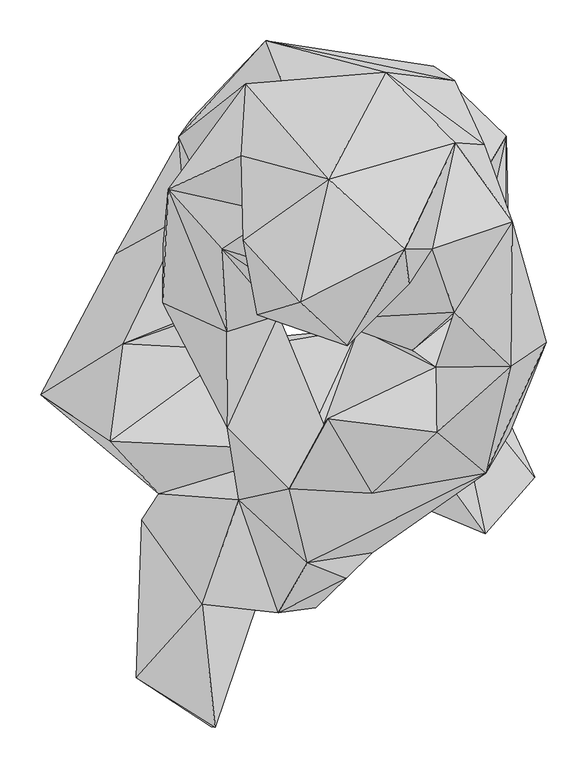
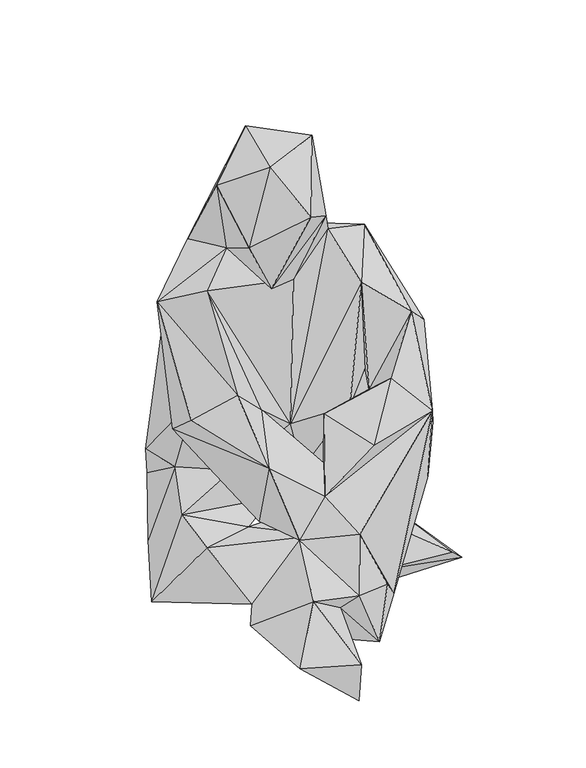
"""IFC4 building model written with IfcOpenShell, lengths in millimetres: geographic element geometry, Enscape AssetDefinition - Faith 001 Sitting : Enscape AssetDefinition - Faith 001 Sitting."""

import ifcopenshell
import ifcopenshell.guid

model = None  # the IFC model being written
_history = None  # IfcOwnerHistory: only IFC2X3 demands one
_inside = {}  # id of a spatial element -> (the spatial element, [elements in it])
_under = {}  # id of a project, library or spatial element -> (it, [spatial elements below it])
_declared = {}  # id of a project -> (the project, [libraries it declares])
_typed = {}  # id of a type object -> (the type object, [elements of that type])
_made_of = {}  # id of a material, layer set ... -> (it, [elements and type objects made of it])


def new_model(schema):
    """Start an empty IFC model of exactly this schema.

    Asked for "IFC4X3", IfcOpenShell would pick the latest addendum, in which some entities
    have other attributes; the version numbers below select the first issue.
    IFC2X3 requires an IfcOwnerHistory on every rooted entity: one is made here for all.
    """
    global model, _history
    if schema == "IFC4X3":
        model = ifcopenshell.file(schema_version=(4, 3, 0, 0))
    else:
        model = ifcopenshell.file(schema=schema)
    _inside.clear()
    _under.clear()
    _declared.clear()
    _typed.clear()
    _made_of.clear()
    _history = None
    if model.schema == "IFC2X3":
        org = make("IfcOrganization", Name="unknown")
        user = make(
            "IfcPersonAndOrganization",
            ThePerson=make("IfcPerson", FamilyName="unknown"),
            TheOrganization=org,
        )
        app = make(
            "IfcApplication",
            ApplicationDeveloper=org,
            Version="unknown",
            ApplicationFullName="unknown",
            ApplicationIdentifier="unknown",
        )
        _history = make(
            "IfcOwnerHistory",
            OwningUser=user,
            OwningApplication=app,
            ChangeAction="ADDED",
            CreationDate=0,
        )
    return model


def make(cls, **values):
    """One entity of the class cls with the attributes given. An attribute that is None is left unset."""
    return model.create_entity(
        cls, **{name: value for name, value in values.items() if value is not None}
    )


def rooted(cls, **values):
    """An entity with a GlobalId (a new one), such as an element, a storey or a relation."""
    return make(cls, GlobalId=ifcopenshell.guid.new(), OwnerHistory=_history, **values)


def si_unit(unit_type, name, prefix=None):
    """IfcSIUnit, for example si_unit("LENGTHUNIT", "METRE", prefix="MILLI")."""
    return make("IfcSIUnit", UnitType=unit_type, Prefix=prefix, Name=name)


def assignment(units):
    """IfcUnitAssignment: the units of a project."""
    return None if units is None else make("IfcUnitAssignment", Units=units)


def point(xyz):
    """IfcCartesianPoint."""
    return None if xyz is None else make("IfcCartesianPoint", Coordinates=xyz)


def direction(xyz):
    """IfcDirection."""
    return None if xyz is None else make("IfcDirection", DirectionRatios=xyz)


def frame(location, z_axis=None, x_axis=None):
    """IfcAxis2Placement3D, a coordinate frame: its origin and axes. An axis left out is left unset."""
    return make(
        "IfcAxis2Placement3D",
        Location=point(location),
        Axis=direction(z_axis),
        RefDirection=direction(x_axis),
    )


def origin():
    """The frame at (0, 0, 0) with its axes left unset."""
    return frame((0.0, 0.0, 0.0))


def place(relative_to, where):
    """IfcLocalPlacement: puts the frame where relative to a parent placement (None: the world)."""
    return make(
        "IfcLocalPlacement", PlacementRelTo=relative_to, RelativePlacement=where
    )


def context(
    kind, dimensions, precision=None, world=None, true_north=None, identifier=None
):
    """IfcGeometricRepresentationContext, for example the 3D "Model" context."""
    return make(
        "IfcGeometricRepresentationContext",
        ContextIdentifier=identifier,
        ContextType=kind,
        CoordinateSpaceDimension=dimensions,
        Precision=precision,
        WorldCoordinateSystem=world,
        TrueNorth=true_north,
    )


def project(units=None, contexts=None):
    """IfcProject with its units and contexts."""
    return rooted(
        "IfcProject",
        Name="project",
        RepresentationContexts=contexts,
        UnitsInContext=assignment(units),
    )


def spatial(cls, under=None, at=None, **own):
    """A site, building, storey or space (cls), placed at a placement, below another one or the project."""
    s = rooted(cls, ObjectPlacement=at, **own)
    if under is not None:
        _under.setdefault(under.id(), (under, []))[1].append(s)
    return s


def point_list(points):
    """IfcCartesianPointList2D or 3D."""
    cls = (
        "IfcCartesianPointList2D" if len(points[0]) == 2 else "IfcCartesianPointList3D"
    )
    return make(cls, CoordList=points)


def triangles(points, corners, closed=None, point_numbers=None):
    """IfcTriangulatedFaceSet: each triangle names its three corners, points numbered from 1."""
    return make(
        "IfcTriangulatedFaceSet",
        Coordinates=point_list(points),
        Closed=closed,
        CoordIndex=corners,
        PnIndex=point_numbers,
    )


def shape(context_of_items, identifier, shape_type, items):
    """IfcShapeRepresentation: the items that make up one representation, for example the "Body"."""
    return make(
        "IfcShapeRepresentation",
        ContextOfItems=context_of_items,
        RepresentationIdentifier=identifier,
        RepresentationType=shape_type,
        Items=items,
    )


def source(mapping_origin, context_of_items, identifier, shape_type, items):
    """IfcRepresentationMap: a shape defined once, which mapped items show again and again."""
    return make(
        "IfcRepresentationMap",
        MappingOrigin=mapping_origin,
        MappedRepresentation=shape(context_of_items, identifier, shape_type, items),
    )


def transform(
    local_origin,
    x_axis=None,
    y_axis=None,
    z_axis=None,
    scale=None,
    scale2=None,
    scale3=None,
    uniform=True,
):
    """IfcCartesianTransformationOperator3D, or its non-uniform kind. x_axis, y_axis, z_axis: its Axis1, 2, 3."""
    if uniform:
        return make(
            "IfcCartesianTransformationOperator3D",
            Axis1=direction(x_axis),
            Axis2=direction(y_axis),
            LocalOrigin=point(local_origin),
            Scale=scale,
            Axis3=direction(z_axis),
        )
    return make(
        "IfcCartesianTransformationOperator3DnonUniform",
        Axis1=direction(x_axis),
        Axis2=direction(y_axis),
        LocalOrigin=point(local_origin),
        Scale=scale,
        Axis3=direction(z_axis),
        Scale2=scale2,
        Scale3=scale3,
    )


def mapped(mapping_source, mapping_target):
    """IfcMappedItem: shows the shape of a source again, moved by a transform."""
    return make(
        "IfcMappedItem", MappingSource=mapping_source, MappingTarget=mapping_target
    )


def made_of(thing, what):
    """Note that an element or type object is made of a material, layer set ...; save() writes the relation."""
    if what is not None:
        _made_of.setdefault(what.id(), (what, []))[1].append(thing)
    return thing


def element(
    cls,
    number,
    at=None,
    inside=None,
    cuts=None,
    type_object=None,
    material=None,
    context=None,
    identifier="Body",
    shape_type=None,
    held_by="IfcProductDefinitionShape",
    body=None,
    shapes=None,
    **own,
):
    """One element of the class cls, such as IfcWall. Its Tag is "e" and its number.

    at: its placement. inside: the storey or other place that contains it. cuts: it is an
    opening in that element (IfcRelVoidsElement). A single representation is given by context,
    identifier, shape_type and body (its items); several are given by shapes. held_by: the class
    of the entity that holds the representations. save() writes the other relations.
    """
    e = rooted(cls, Tag="e%d" % number, ObjectPlacement=at, **own)
    if body is not None:
        shapes = [shape(context, identifier, shape_type, body)]
    if shapes is not None:
        e.Representation = make(held_by, Representations=shapes)
    if inside is not None:
        _inside.setdefault(inside.id(), (inside, []))[1].append(e)
    if cuts is not None:
        rooted(
            "IfcRelVoidsElement", RelatingBuildingElement=cuts, RelatedOpeningElement=e
        )
    if type_object is not None:
        _typed.setdefault(type_object.id(), (type_object, []))[1].append(e)
    return made_of(e, material)


def aggregate(whole, parts):
    """IfcRelAggregates: a whole, such as a stair, and the parts it consists of."""
    return rooted("IfcRelAggregates", RelatingObject=whole, RelatedObjects=parts)


def save(model, path):
    """Write the relations noted so far, then the file.

    IfcRelAggregates (storeys below a building ...), IfcRelContainedInSpatialStructure (elements
    in a storey), IfcRelDefinesByType, IfcRelAssociatesMaterial and IfcRelDeclares: one each for
    every whole, place, type object, material and project.
    """
    for whole, parts in _under.values():
        aggregate(whole, parts)
    for where, things in _inside.values():
        rooted(
            "IfcRelContainedInSpatialStructure",
            RelatedElements=things,
            RelatingStructure=where,
        )
    for kind, things in _typed.values():
        rooted("IfcRelDefinesByType", RelatedObjects=things, RelatingType=kind)
    for what, things in _made_of.values():
        rooted("IfcRelAssociatesMaterial", RelatedObjects=things, RelatingMaterial=what)
    for by, libraries in _declared.values():
        rooted("IfcRelDeclares", RelatingContext=by, RelatedDefinitions=libraries)
    model.write(path)


def geographic_element_9276c96e(model_context):
    return source(origin(), model_context, "Body", "Tessellation", [
        triangles([(25.6670016, -270.9259957, 0.0), (-120.9520013, -157.3359996, 0.0), (-113.3329987, -266.845994, 136.985007), (-187.6459954, -163.2360028, 45.5540009), (-68.7919992, -138.5329958, 182.2540099), (-97.1319981, -417.2670087, 80.1519935), (-193.9910115, -356.6079932, 67.4590001), (-33.9149993, -229.5539934, 73.0480031), (-102.5340031, -416.4410053, 0.0), (15.3139998, -215.8589899, 213.6320001), (-20.3520008, -277.0280033, 123.6260023), (63.2110036, -235.1539968, 94.4920067), (95.2240023, -203.5920061, 44.3979986), (-6.9100002, -124.9840045, 251.4579979), (233.743, -106.2789961, 349.7569942), (190.8009991, 17.0329992, 93.9819996), (55.2330022, -33.6409994, 202.2659969), (221.9000093, -110.9620043, 208.0710023), (54.0559983, -142.9249969, 62.2129995), (-13.339, -71.7580019, 0.0), (113.5730004, -129.851994, 46.2139987), (158.4360051, -76.1450024, 101.3419973), (-166.6040022, -131.4350097, 67.9309962), (-311.0330134, -10.3490004, 50.1249973), (-83.8249979, -13.5469997, 154.3229931), (-12.5759993, -98.6040013, 166.3769993), (9.7770002, -77.830996, 129.4710035), (-95.792, 202.1850062, 307.5419838), (-161.0890045, 172.9729993, 278.0489984), (-154.9939914, 241.3099982, 520.9199841), (-134.315993, 209.0770092, 160.8110055), (-70.2980029, 108.5610062, 190.6709925), (-35.2840018, 423.3349886, 119.6449953), (-141.9119956, 306.0159868, 145.0690067), (-126.5130082, 327.0990023, 72.7029978), (-209.7570004, 52.4130026, 173.0560066), (-219.1040135, 162.8640052, 51.7870007), (-189.0799922, 44.8650031, 0.0), (-225.8290027, -66.8300005, 176.2099929), (-72.3420006, 45.2059979, 102.0110063), (29.5810001, 136.6309952, 76.4030036), (35.8250003, 199.8550067, 0.0), (-35.2250006, 356.9839877, 0.0), (-173.066998, 184.127006, 0.0), (168.8479968, 321.7479844, 5.04), (170.1030074, 392.0229827, 91.9940032), (196.0200119, 374.2449981, 233.9279996), (111.6629971, 385.1960011, 399.5090083), (233.1120066, 263.7759961, 291.2040094), (269.0250034, 110.1749974, 354.9689944), (232.0570019, 296.0569835, 402.0119805), (216.4800094, 112.9700031, 320.1509889), (264.5939876, 24.8670005, 483.7089924), (307.7859733, 53.975003, 433.0399921), (266.6470054, 202.0000066, 572.6860105), (173.6580048, -56.3540003, 414.0459844), (173.0229963, 23.5120005, 340.3560056), (94.4479959, -130.5689924, 335.0750052), (35.7539995, -46.7370001, 265.315001), (40.4389969, -39.3950018, 369.9660078), (78.701001, 70.7349993, 81.1539945), (-82.8130048, -50.1130022, 296.4560144), (-19.9400006, 87.4919979, 323.0469967), (39.0710027, 82.6210016, 273.9340061), (66.8980015, 120.0080001, 568.0279736), (168.689994, 168.666013, 616.4050352), (66.959998, 85.3739949, 161.514996), (-0.549, 10.4129999, 0.0), (117.2429981, -108.3569943, 0.0), (293.9110026, -111.2139965, 0.0), (233.4689979, -180.419002, 74.2050046), (192.6640031, 107.4279994, 13.4230009), (259.2749808, 306.7680121, 119.2100019), (263.8360033, 81.5270004, 158.5240085), (259.2000036, 138.6890001, 204.2749949), (263.3909905, -56.9619982, 284.3480144), (195.4300043, 90.6859981, 533.4299764), (144.0510002, 44.1620028, 300.6840085), (196.9189941, 298.2900231, 543.0780066), (134.6130043, 167.8329969, 841.3339657), (140.3210044, 126.0530072, 682.1299479), (-1.0489999, 83.6940012, 591.8820045), (-23.1480011, 212.1489874, 614.3720198), (-89.5870008, 168.7779974, 566.6530211), (-45.9689964, 88.0549995, 697.7079941), (64.3659976, 49.5840011, 752.0509706), (7.0349999, 102.8309962, 852.0580204), (-83.4089986, 67.1309996, 390.0860006), (-161.5799993, 102.7550016, 339.342005), (41.8539996, 253.8299825, 842.5250267), (-65.5250021, 282.3239918, 607.5109923), (-62.9979988, 179.202997, 790.3069931), (-11.0799991, 361.9329952, 380.6070007), (-59.873998, 370.6859857, 426.4850143)], [[17, 22, 27], [22, 71, 16], [94, 90, 48], [48, 93, 94], [90, 91, 92], [90, 94, 91], [30, 91, 94], [30, 89, 88], [30, 88, 84], [30, 83, 91], [30, 84, 83], [91, 83, 92], [92, 83, 85], [90, 92, 87], [92, 85, 87], [87, 85, 86], [83, 82, 85], [85, 82, 86], [83, 84, 65], [83, 65, 82], [86, 82, 81], [81, 82, 65], [80, 86, 81], [87, 86, 80], [80, 90, 87], [48, 90, 79], [90, 80, 79], [81, 65, 66], [66, 80, 81], [80, 66, 79], [66, 55, 79], [55, 66, 77], [78, 57, 76], [52, 76, 57], [52, 57, 77], [52, 77, 78], [75, 78, 76], [75, 52, 78], [76, 74, 75], [74, 76, 16], [52, 75, 73], [73, 75, 74], [46, 73, 45], [74, 72, 73], [16, 72, 74], [45, 73, 72], [16, 70, 72], [16, 71, 70], [22, 21, 71], [70, 71, 21], [72, 70, 69], [21, 69, 70], [72, 69, 20], [20, 69, 21], [68, 72, 20], [68, 20, 38], [61, 72, 68], [16, 61, 22], [57, 78, 61], [61, 16, 17], [27, 22, 61], [61, 68, 38], [67, 61, 78], [66, 64, 77], [64, 67, 78], [66, 65, 64], [64, 78, 77], [84, 64, 65], [67, 64, 32], [64, 84, 63], [64, 63, 32], [63, 84, 88], [63, 88, 62], [89, 62, 88], [59, 57, 61], [32, 63, 59], [61, 17, 59], [62, 59, 63], [60, 57, 59], [62, 14, 59], [59, 14, 60], [58, 60, 14], [60, 56, 57], [56, 60, 58], [56, 58, 15], [15, 58, 14], [77, 53, 55], [57, 53, 77], [57, 56, 53], [56, 15, 53], [53, 54, 55], [76, 54, 15], [53, 15, 54], [50, 54, 76], [76, 52, 50], [73, 49, 52], [46, 49, 73], [50, 52, 49], [51, 55, 54], [54, 50, 51], [55, 51, 79], [51, 50, 49], [51, 48, 79], [47, 49, 46], [49, 47, 51], [51, 47, 48], [47, 46, 33], [33, 93, 48], [33, 48, 47], [33, 46, 35], [37, 44, 38], [35, 44, 37], [43, 46, 45], [44, 35, 43], [46, 43, 35], [43, 45, 42], [45, 72, 42], [44, 42, 38], [43, 42, 44], [41, 42, 72], [67, 41, 61], [41, 72, 61], [32, 41, 67], [40, 42, 41], [27, 61, 40], [38, 42, 40], [40, 61, 38], [40, 39, 27], [36, 40, 41], [32, 36, 41], [36, 39, 40], [38, 20, 24], [39, 36, 24], [38, 24, 37], [31, 36, 32], [37, 31, 35], [31, 37, 24], [31, 24, 36], [33, 34, 93], [94, 93, 34], [35, 34, 33], [35, 31, 34], [31, 32, 28], [94, 34, 28], [34, 31, 28], [30, 94, 29], [94, 28, 29], [29, 89, 30], [29, 62, 89], [28, 32, 29], [32, 25, 29], [29, 25, 62], [17, 27, 26], [59, 17, 26], [59, 26, 32], [25, 32, 26], [25, 26, 5], [62, 25, 5], [14, 62, 5], [27, 5, 26], [27, 39, 23], [20, 23, 24], [24, 23, 39], [5, 27, 23], [22, 19, 21], [19, 20, 21], [19, 23, 20], [22, 18, 19], [17, 16, 18], [17, 18, 22], [76, 15, 18], [76, 18, 16], [19, 18, 13], [18, 15, 13], [15, 10, 13], [14, 10, 15], [14, 5, 10], [13, 10, 12], [1, 13, 12], [13, 1, 19], [12, 11, 1], [11, 12, 10], [10, 5, 11], [6, 7, 9], [9, 8, 6], [1, 11, 8], [5, 3, 11], [3, 7, 6], [3, 8, 11], [8, 3, 6], [23, 4, 5], [4, 3, 5], [3, 4, 7], [4, 23, 2], [19, 1, 2], [2, 1, 8], [19, 2, 23], [2, 8, 9], [9, 7, 2], [2, 7, 4]]),
    ])


if __name__ == "__main__":
    model = new_model("IFC4")
    model_context = context("Model", 3, world=origin())
    ifc_project = project(units=[si_unit("LENGTHUNIT", "METRE", prefix="MILLI")], contexts=[model_context])
    site = spatial("IfcSite", under=ifc_project)
    building = spatial("IfcBuilding", under=site)
    placement = place(None, origin())
    geographic_element_shape = geographic_element_9276c96e(model_context)
    element("IfcGeographicElement", 1, ObjectType="Enscape AssetDefinition - Faith 001 Sitting : Enscape AssetDefinition - Faith 001 Sitting", at=placement, inside=building, context=model_context, shape_type="MappedRepresentation", body=[
        mapped(geographic_element_shape, transform((0.0, 0.0, 0.0), x_axis=(1.0, 0.0, 0.0), y_axis=(0.0, 1.0, 0.0), z_axis=(0.0, 0.0, 1.0))),
    ])
    save(model, "model.ifc")
